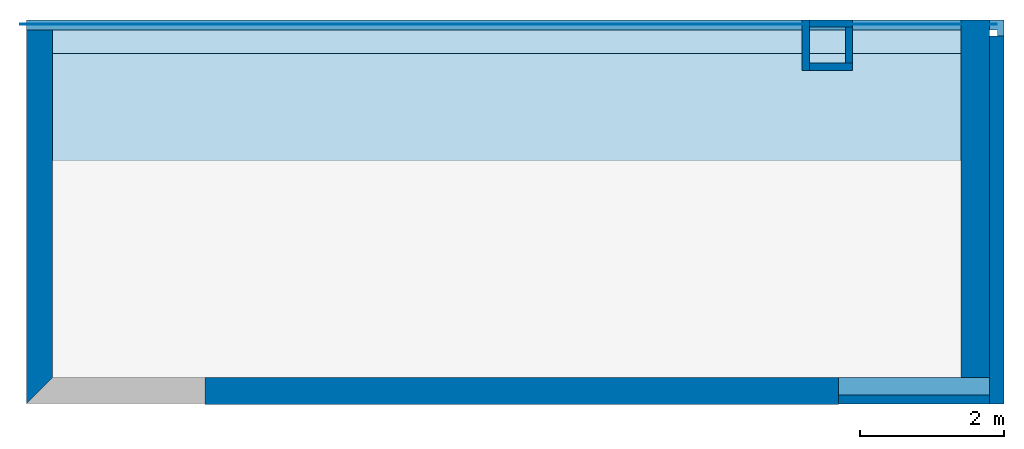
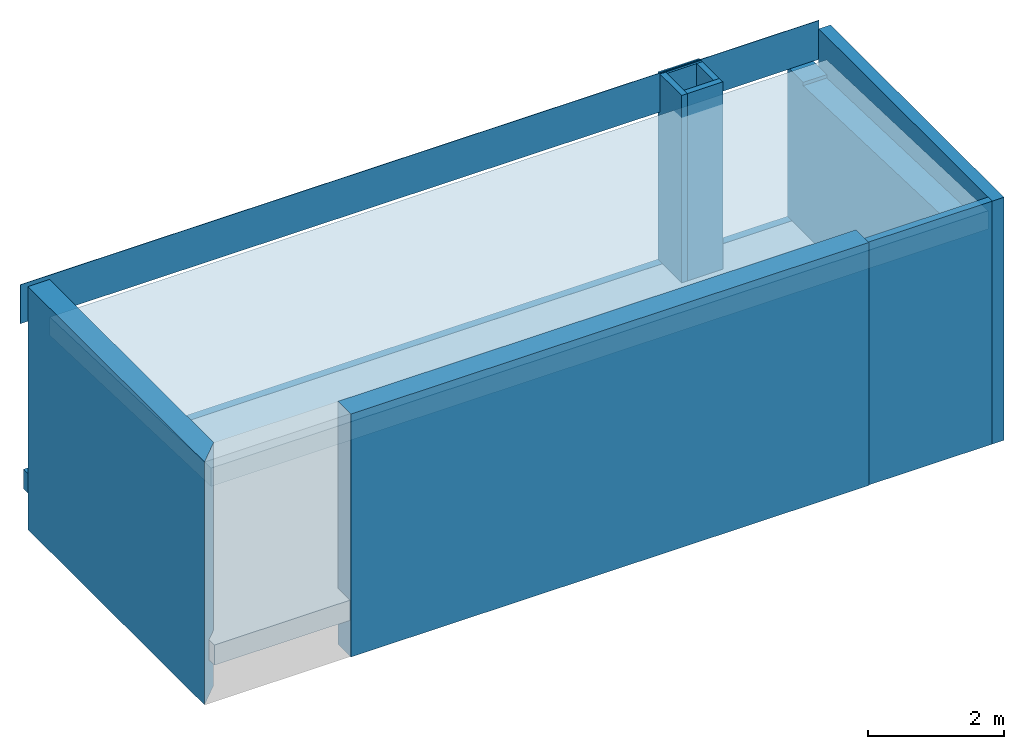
# One storey, part 1 of 3: 10 walls, 3 slabs, 1 element without a shape of its own.
"""IFC2X3 building model written with IfcOpenShell, lengths in millimetres."""

from ifc_helpers import new_model, entity, si_unit, converted_unit, derived_unit, direction, frame, frame_2d, origin, origin_with_axes, place, context, subcontext, project, spatial, polyline, rectangle, outline, extrude, clip, bounded_halfspace, faceted_brep, material, layer, layer_set, layer_usage, type_object, element, aggregate, save


model = new_model("IFC2X3")

# Units and contexts
model_context = context("Model", 3, precision=0.01, world=origin(), true_north=direction((6.12303176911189e-17, 1.0)))
plan_context = context("Plan", 3, precision=1e-05, world=origin_with_axes())
body_context = subcontext(model_context, "Body", "Model", "MODEL_VIEW")
ifc_project = project(units=[converted_unit("PLANEANGLEUNIT", "DEGREE", entity("IfcPositiveLengthMeasure", 0.0174532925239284), si_unit("PLANEANGLEUNIT", "RADIAN"), dimensions=[0, 0, 0, 0, 0, 0, 0]), si_unit("AREAUNIT", "SQUARE_METRE"), si_unit("LENGTHUNIT", "METRE", prefix="MILLI"), si_unit("MASSUNIT", "GRAM", prefix="KILO"), si_unit("POWERUNIT", "WATT"), si_unit("PRESSUREUNIT", "PASCAL"), si_unit("FORCEUNIT", "NEWTON", prefix="KILO"), si_unit("ELECTRICVOLTAGEUNIT", "VOLT"), si_unit("ELECTRICCURRENTUNIT", "AMPERE"), si_unit("THERMODYNAMICTEMPERATUREUNIT", "DEGREE_CELSIUS"), si_unit("TIMEUNIT", "SECOND"), si_unit("VOLUMEUNIT", "CUBIC_METRE"), derived_unit("LINEARVELOCITYUNIT", [(si_unit("LENGTHUNIT", "METRE"), 1), (si_unit("TIMEUNIT", "SECOND"), -1)]), derived_unit("VOLUMETRICFLOWRATEUNIT", [(si_unit("VOLUMEUNIT", "CUBIC_METRE"), 1), (si_unit("TIMEUNIT", "SECOND"), -1)]), derived_unit("THERMALTRANSMITTANCEUNIT", [(si_unit("POWERUNIT", "WATT"), 1), (si_unit("THERMODYNAMICTEMPERATUREUNIT", "KELVIN"), -1), (si_unit("AREAUNIT", "SQUARE_METRE"), -1)]), derived_unit("SOUNDPRESSUREUNIT", [(si_unit("PRESSUREUNIT", "PASCAL"), 1)])], contexts=[model_context, plan_context])

# Site, building, storey
site_placement = place(None, frame((2314154.5009392, 1029894.10887124, 0.0), z_axis=(0.0, 0.0, 1.0), x_axis=(1.0, 0.0, 0.0)))
site = spatial("IfcSite", under=ifc_project, at=site_placement, Name="Default", CompositionType="ELEMENT")
building_placement = place(site_placement, origin_with_axes())
building = spatial("IfcBuilding", under=site, at=building_placement, CompositionType="ELEMENT")
storey_placement = place(building_placement, frame((0.0, 0.0, 15370.0), z_axis=(0.0, 0.0, 1.0), x_axis=(1.0, 0.0, 0.0)))
storey = spatial("IfcBuildingStorey", under=building, at=storey_placement, Name="XX - C +15,37 TA E2", CompositionType="ELEMENT", Elevation=15370.0)

# Slabs
ifc_material_1 = material(Name="Værnes_Aluminium")
ifc_layer_1 = layer(ifc_material_1, 70.0)
ifc_material_2 = material(Name="_NSW Betong")
ifc_layer_2 = layer(ifc_material_2, 280.0)
ifc_layer_set_1 = layer_set([ifc_layer_1, ifc_layer_2], Name="Floor:NSW Generic 350 mm")
slab_type_1 = type_object("IfcSlabType", Name="Floor:NSW Generic 350 mm", PredefinedType="FLOOR", material=ifc_layer_set_1)
slab_1_placement = place(storey_placement, frame((-4621.66605264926, -24613.4514097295, -350.0), z_axis=(0.0, 0.0, 1.0), x_axis=(1.0, 0.0, 0.0)))
element("IfcSlab", 1, at=slab_1_placement, inside=storey, type_object=slab_type_1, Name="Floor:NSW Generic 350 mm", ObjectType="Floor:NSW Generic 350 mm", PredefinedType="FLOOR", context=body_context, shape_type="Brep", body=[
    faceted_brep([(16631.9999999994, 10943.1481296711, 350.0), (16631.9999999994, 10943.1481296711, -5.6843418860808e-13), (16542.0, 10943.1481296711, -5.6843418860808e-13), (16542.0, 10943.1481296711, 350.0), (16542.0, 16014.0000000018, -5.6843418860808e-13), (16542.0, 16014.0000000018, 350.0), (3064.12216539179, 16014.0000000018, -5.6843418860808e-13), (3064.12216539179, 16014.0000000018, 350.0), (3064.12216539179, 16149.4395951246, 350.0), (16631.9999999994, 16149.4395951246, 350.0), (16631.9999999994, 16149.4395951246, -3.41060513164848e-13), (3064.12216539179, 16149.4395951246, -3.41060513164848e-13)], [[[0, 1, 2, 3]], [[3, 2, 4, 5]], [[6, 7, 5, 4]], [[7, 8, 9, 0, 3, 5]], [[1, 10, 11, 6, 4, 2]], [[10, 1, 0, 9]], [[9, 8, 11, 10]], [[8, 7, 6, 11]]], orient=[[False], [False], [False], [False], [False], [False], [False], [False]]),
])
ifc_material_3 = material(Name="Værnes_Flis Existing_Pink")
ifc_layer_3 = layer(ifc_material_3, 12.0)
ifc_material_4 = material(Name="Værnes_Betong")
ifc_layer_4 = layer(ifc_material_4, 350.0)
ifc_layer_set_2 = layer_set([ifc_layer_3, ifc_layer_4], Name="Floor:Værnes Betong 350mm")
ifc_layer_usage_1 = layer_usage(ifc_layer_set_2, "AXIS3", "POSITIVE", 0.0)
slab_type_2 = type_object("IfcSlabType", Name="Floor:Værnes Betong 350mm", PredefinedType="FLOOR", material=ifc_layer_set_2)
slab_2_placement = place(storey_placement, origin_with_axes())
element("IfcSlab", 2, at=slab_2_placement, inside=storey, type_object=slab_type_2, material=ifc_layer_usage_1, Name="Floor:Værnes Betong 350mm", ObjectType="Floor:Værnes Betong 350mm", PredefinedType="FLOOR", context=body_context, shape_type="SweptSolid", body=[
    extrude(outline(polyline([(-1756.95062344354, -8036.66666666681), (3413.9012468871, -8036.66666666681), (3413.9012468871, 5153.33333333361), (-1656.95062344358, 5153.33333333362), (-1656.95062344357, 2883.33333333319), (-1756.95062344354, 2883.33333333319), (-1756.95062344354, -8036.66666666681)])), frame((6657.00061401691, -12013.3526566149, 0.0), z_axis=(0.0, 0.0, -1.0), x_axis=(0.0, 1.0, 0.0)), (0.0, 0.0, 1.0), 362.0),
])

# Roof, slab
ifc_material_5 = material(Name="Værnes_Isolasjon-Mineralull")
ifc_layer_5 = layer(ifc_material_5, 150.0)
ifc_material_6 = material(Name="Værnes_TRP")
ifc_layer_6 = layer(ifc_material_6, 130.0)
ifc_material_7 = material(Name="Værnes_HS-Metalpanel_hovedtak")
ifc_layer_7 = layer(ifc_material_7, 50.0)
ifc_layer_set_3 = layer_set([ifc_layer_5, ifc_layer_6, ifc_layer_7], Name="Basic Roof:Tak tilbygg 330mm")
roof_placement = place(storey_placement, frame((-1379.66605264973, -13674.3267728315, 2621.52903561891), z_axis=(0.0, 0.0, 1.0), x_axis=(1.0, 0.0, 0.0)))
roof = element("IfcRoof", 3, at=roof_placement, inside=storey, material=ifc_layer_set_3, Name="Basic Roof:Tak tilbygg 330mm", ObjectType="Basic Roof:Tak tilbygg 330mm", ShapeType="NOTDEFINED")
slab_3_placement = place(roof_placement, origin_with_axes())
slab_3 = element("IfcSlab", 4, at=slab_3_placement, material=ifc_layer_set_3, Name="Basic Roof:Tak tilbygg 330mm", ObjectType="Basic Roof:Tak tilbygg 330mm", PredefinedType="ROOF", context=body_context, shape_type="SweptSolid", body=[
    extrude(rectangle(XDim=13190.0000000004, YDim=4750.03551405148, at=frame_2d((0.0, -6.82121026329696e-13), x_axis=(1.0, 0.0))), frame((6595.0, 2373.57096037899, 82.8869243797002), z_axis=(0.0, 0.0348994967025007, 0.999390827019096), x_axis=(1.0, 0.0, 0.0)), (0.0, -0.0348994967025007, 0.999390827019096), 330.201149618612),
])
aggregate(roof, [slab_3])

# Walls
ifc_material_8 = material(Name="Facade sketch 2")
ifc_layer_8 = layer(ifc_material_8, 20.0)
ifc_material_9 = material(Name="Existing - Bridget key")
ifc_layer_9 = layer(ifc_material_9, 180.0)
ifc_layer_set_4 = layer_set([ifc_layer_8, ifc_layer_9], Name="Basic Wall:V_Existing 200mm facade wood")
wall_type_1 = type_object("IfcWallType", Name="Basic Wall:V_Existing 200mm facade wood", PredefinedType="STANDARD", material=ifc_layer_set_4)
wall_1_placement = place(storey_placement, frame((11910.3339473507, -13790.3032800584, -1455.0), z_axis=(0.0, 0.0, 1.0), x_axis=(0.0, 1.0, 0.0)))
element("IfcWall", 5, at=wall_1_placement, inside=storey, type_object=wall_type_1, Name="Basic Wall:V_Existing 200mm facade wood", ObjectType="Basic Wall:V_Existing 200mm facade wood", context=body_context, shape_type="Brep", body=[
    faceted_brep([(5101.29146545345, 99.9999999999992, 455.0), (5101.29146545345, -99.9999999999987, 455.0), (5101.29146545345, -99.9999999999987, 4814.0), (5101.29146545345, 99.9999999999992, 4814.0), (0.0, 99.9999999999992, 455.0), (0.0, 99.9999999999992, 4814.0), (0.0, -99.9999999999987, 455.0), (0.0, -99.9999999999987, 4814.0)], [[[0, 1, 2, 3]], [[4, 0, 3, 5]], [[6, 4, 5, 7]], [[1, 6, 7, 2]], [[3, 2, 7, 5]], [[4, 6, 1, 0]]], orient=[[False], [False], [False], [False], [False], [False]]),
])
ifc_material_10 = material(Name="Værnes_Tre panel Existing")
ifc_layer_10 = layer(ifc_material_10, 10.0)
ifc_layer_set_5 = layer_set([ifc_layer_10], Name="Basic Wall:V_Existing 10mm Pir Wood Panel")
ifc_layer_usage_2 = layer_usage(ifc_layer_set_5, "AXIS2", "NEGATIVE", 5.0)
wall_type_2 = type_object("IfcWallType", Name="Basic Wall:V_Existing 10mm Pir Wood Panel", PredefinedType="STANDARD", material=ifc_layer_set_5)
wall_2_placement = place(storey_placement, frame((-1644.66605264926, -8522.18485207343, 2677.41367062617), z_axis=(0.0, 0.0, 1.0), x_axis=(1.0, 0.0, 0.0)))
element("IfcWallStandardCase", 6, at=wall_2_placement, inside=storey, type_object=wall_type_2, material=ifc_layer_usage_2, Name="Basic Wall:V_Existing 10mm Pir Wood Panel", ObjectType="Basic Wall:V_Existing 10mm Pir Wood Panel", context=body_context, shape_type="SweptSolid", body=[
    extrude(rectangle(XDim=13555.0, YDim=9.99999999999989, at=frame_2d((6777.5, 1.57207580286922e-13), x_axis=(-1.0, 0.0))), origin(), (0.0, 0.0, 1.0), 700.230531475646),
])
ifc_material_11 = material(Name="Fasadeplate")
ifc_layer_11 = layer(ifc_material_11, 8.0)
ifc_layer_12 = layer(ifc_material_9, 358.0)
ifc_layer_set_6 = layer_set([ifc_layer_11, ifc_layer_12], Name="Basic Wall:V_Existing 300mm facade plate")
wall_type_3 = type_object("IfcWallType", Name="Basic Wall:V_Existing 300mm facade plate", PredefinedType="STANDARD", material=ifc_layer_set_6)
wall_3_placement = place(storey_placement, frame((-1374.1141612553, -13790.277812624, -1735.0), z_axis=(0.0, 0.0, 1.0), x_axis=(-0.000139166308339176, 0.999999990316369, 0.0)))
element("IfcWall", 7, at=wall_3_placement, inside=storey, type_object=wall_type_3, Name="Basic Wall:V_Existing 300mm facade plate", ObjectType="Basic Wall:V_Existing 300mm facade plate", context=body_context, shape_type="Brep", body=[
    faceted_brep([(365.949068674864, -183.0, 735.0), (0.0, 183.0, 735.0), (0.0, 183.0, 5095.0), (365.949068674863, -183.0, 5095.0), (5190.28560037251, -183.0, 735.0), (5190.28560037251, -183.0, 5095.0), (5190.2856003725, 183.0, 735.0), (5190.2856003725, 183.0, 5095.0)], [[[0, 1, 2, 3]], [[4, 0, 3, 5]], [[6, 4, 5, 7]], [[1, 6, 7, 2]], [[3, 2, 7, 5]], [[4, 6, 1, 0]]], orient=[[False], [False], [False], [False], [False], [False]]),
])
wall_4_placement = place(storey_placement, frame((11810.3339473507, -13607.3032800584, -1735.0), z_axis=(0.0, 0.0, 1.0), x_axis=(-1.0, 0.0, 0.0)))
element("IfcWall", 8, at=wall_4_placement, inside=storey, type_object=wall_type_3, Name="Basic Wall:V_Existing 300mm facade plate", ObjectType="Basic Wall:V_Existing 300mm facade plate", context=body_context, shape_type="Brep", body=[
    faceted_brep([(2100.0, 182.999999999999, 735.0), (2100.0, -183.0, 735.0), (2100.0, -183.0, 1373.0), (2100.0, 63.0, 1373.0), (2100.0, 63.0, 5095.0), (2100.0, 182.999999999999, 5095.0), (2.27373675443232e-13, 182.999999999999, 735.0), (2.27373675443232e-13, 182.999999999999, 5095.0), (0.0, -183.0, 735.0), (0.0, 63.0, 5095.0), (0.0, 63.0, 1373.0), (0.0, -183.0, 1373.0)], [[[0, 1, 2, 3, 4, 5]], [[6, 0, 5, 7]], [[8, 6, 7, 9, 10, 11]], [[1, 8, 11, 2]], [[4, 9, 7, 5]], [[10, 9, 4, 3]], [[10, 3, 2, 11]], [[6, 8, 1, 0]]], orient=[[False], [False], [False], [False], [False], [False], [False], [False]]),
])
ifc_layer_13 = layer(ifc_material_8, 20.0)
ifc_layer_14 = layer(ifc_material_9, 358.0)
ifc_layer_set_7 = layer_set([ifc_layer_13, ifc_layer_14], Name="Basic Wall:V_Existing 300mm facade wood")
wall_type_4 = type_object("IfcWallType", Name="Basic Wall:V_Existing 300mm facade wood", PredefinedType="STANDARD", material=ifc_layer_set_7)
wall_5_placement = place(storey_placement, frame((9710.33394735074, -13613.3032800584, -1735.0), z_axis=(0.0, 0.0, 1.0), x_axis=(-1.0, 0.0, 0.0)))
element("IfcWall", 9, at=wall_5_placement, inside=storey, type_object=wall_type_4, Name="Basic Wall:V_Existing 300mm facade wood", ObjectType="Basic Wall:V_Existing 300mm facade wood", context=body_context, shape_type="Brep", body=[
    faceted_brep([(8790.00000000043, 189.0, 735.0), (8790.0000000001, -189.000000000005, 735.0), (8790.00000000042, -189.00000000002, 1373.0), (8790.00000000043, 156.999999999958, 1373.0), (8790.00000000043, 156.999999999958, 1735.0), (8790.00000000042, -189.00000000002, 1735.0), (8790.00000000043, -189.0, 5095.0), (8790.00000000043, 189.0, 5095.0), (0.0, 189.0, 735.0), (0.0, 189.0, 5095.0), (-2.2117012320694e-13, -188.999999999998, 735.0), (0.0, -189.0, 5095.0), (-9.09494701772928e-13, -188.999999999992, 1735.0), (2.27373675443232e-12, 56.9999999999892, 1735.0), (2.27373675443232e-12, 56.9999999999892, 1373.0), (-9.09494701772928e-13, -188.999999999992, 1373.0), (170.000000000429, 56.9999999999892, 1373.0), (170.000000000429, 56.9999999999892, 1735.0), (170.000000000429, 156.999999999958, 1735.0), (170.000000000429, 156.999999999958, 1373.0)], [[[0, 1, 2, 3, 4, 5, 6, 7]], [[8, 0, 7, 9]], [[10, 8, 9, 11, 12, 13, 14, 15]], [[5, 12, 11, 6]], [[1, 10, 15, 2]], [[7, 6, 11, 9]], [[16, 17, 18, 19]], [[14, 13, 17, 16]], [[19, 18, 4, 3]], [[3, 2, 15, 14, 16, 19]], [[13, 12, 5, 4, 18, 17]], [[8, 10, 1, 0]]], orient=[[False], [False], [False], [False], [False], [False], [False], [False], [False], [False], [False], [False]]),
])
ifc_layer_15 = layer(ifc_material_9, 100.0)
ifc_layer_set_8 = layer_set([ifc_layer_15], Name="Basic Wall:V_Existing 100mm")
ifc_layer_usage_3 = layer_usage(ifc_layer_set_8, "AXIS2", "POSITIVE", -50.0)
wall_type_5 = type_object("IfcWallType", Name="Basic Wall:V_Existing 100mm", PredefinedType="STANDARD", material=ifc_layer_set_8)
for number, where, z_axis, x_axis, name in (
    (10, (9910.33394735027, -8514.01181460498, -1205.0), (0.0, 0.0, 1.0), (-1.0, 0.0, 0.0), "Basic Wall:V_Existing 100mm"),
    (11, (9910.33394735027, -9114.01181460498, -1205.0), (0.0, 0.0, 1.0), (-1.0, 0.0, 0.0), "Basic Wall:V_Existing 100mm"),
):
    element("IfcWallStandardCase", number, at=place(storey_placement, frame(where, z_axis=z_axis, x_axis=x_axis)), inside=storey, type_object=wall_type_5, material=ifc_layer_usage_3, Name=name, ObjectType="Basic Wall:V_Existing 100mm", context=body_context, shape_type="SweptSolid", body=[
        extrude(rectangle(XDim=600.000000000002, YDim=100.000000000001, at=frame_2d((300.000000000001, 7.105427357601e-15), x_axis=(-1.0, 0.0))), origin(), (0.0, 0.0, 1.0), 4565.00000000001),
    ])
ifc_layer_usage_4 = layer_usage(ifc_layer_set_8, "AXIS2", "NEGATIVE", 50.0)
wall_6_placement = place(storey_placement, frame((9260.33394735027, -9164.01181460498, -1205.0), z_axis=(0.0, 0.0, 1.0), x_axis=(0.0, 1.0, 0.0)))
element("IfcWallStandardCase", 12, at=wall_6_placement, inside=storey, type_object=wall_type_5, material=ifc_layer_usage_4, Name="Basic Wall:V_Existing 100mm", ObjectType="Basic Wall:V_Existing 100mm", context=body_context, shape_type="SweptSolid", body=[
    extrude(rectangle(XDim=700.0, YDim=100.000000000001, at=frame_2d((350.0, -1.20792265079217e-13), x_axis=(-1.0, 0.0))), origin(), (0.0, 0.0, 1.0), 4565.00000000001),
])
wall_7_placement = place(storey_placement, frame((9860.33394735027, -9064.01181460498, -1205.0), z_axis=(0.0, 0.0, 1.0), x_axis=(0.0, 1.0, 0.0)))
element("IfcWallStandardCase", 13, at=wall_7_placement, inside=storey, type_object=wall_type_5, material=ifc_layer_usage_4, Name="Basic Wall:V_Existing 100mm", ObjectType="Basic Wall:V_Existing 100mm", context=body_context, shape_type="SweptSolid", body=[
    extrude(rectangle(XDim=500.0, YDim=99.9999999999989, at=frame_2d((250.0, 3.01980662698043e-13), x_axis=(-1.0, 0.0))), origin(), (0.0, 0.0, 1.0), 4565.00000000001),
])
ifc_material_12 = material(Name="Default")
ifc_layer_16 = layer(ifc_material_12, 400.0)
ifc_layer_set_9 = layer_set([ifc_layer_16], Name="Basic Wall:Generic-Innvendig-400mm")
ifc_layer_usage_5 = layer_usage(ifc_layer_set_9, "AXIS2", "POSITIVE", -200.0)
wall_type_6 = type_object("IfcWallType", Name="Basic Wall:Generic-Innvendig-400mm", PredefinedType="STANDARD", material=ifc_layer_set_9)
wall_8_placement = place(storey_placement, frame((11610.3339473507, -13424.3032800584, 0.0), z_axis=(0.0, 0.0, 1.0), x_axis=(0.0, 1.0, 0.0)))
element("IfcWallStandardCase", 14, at=wall_8_placement, inside=storey, type_object=wall_type_6, material=ifc_layer_usage_5, Name="Basic Wall:Generic-Innvendig-400mm", ObjectType="Basic Wall:Generic-Innvendig-400mm", context=body_context, shape_type="Clipping", body=[
    clip(clip(extrude(rectangle(XDim=4960.29146545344, YDim=400.0, at=frame_2d((2480.14573272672, 0.0), x_axis=(-1.0, 0.0))), origin(), (0.0, 0.0, 1.0), 2778.57187161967), bounded_halfspace(frame((0.0, -200.0, 2778.57187161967), z_axis=(0.0348994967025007, 0.0, 0.999390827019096), x_axis=(0.0, 1.0, 0.0)), False, frame((0.0, -200.0, 2778.57187161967)), polyline([(0.0, 0.0), (4497.11842798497, 0.0), (4497.11842798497, 400.0), (0.0, 400.0), (0.0, 0.0)]))), bounded_halfspace(frame((4497.11842798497, -200.0, 2681.51786693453), z_axis=(0.0, 0.0, 1.0), x_axis=(0.0, 1.0, 0.0)), False, frame((4497.11842798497, -200.0, 2681.51786693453)), polyline([(0.0, 0.0), (463.173037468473, 0.0), (463.173037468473, 400.0), (0.0, 400.0), (0.0, 0.0)]))),
])

save(model, "model.ifc")
